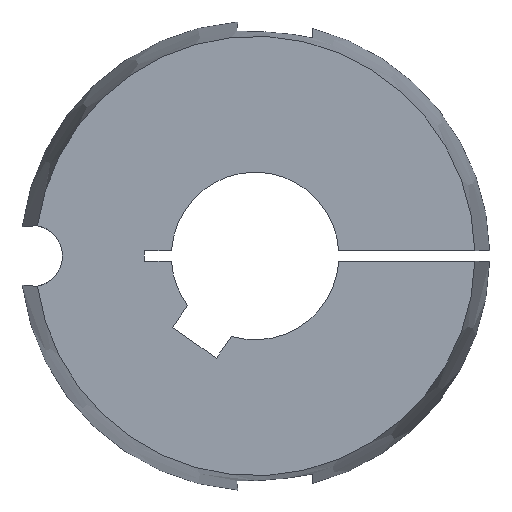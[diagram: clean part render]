
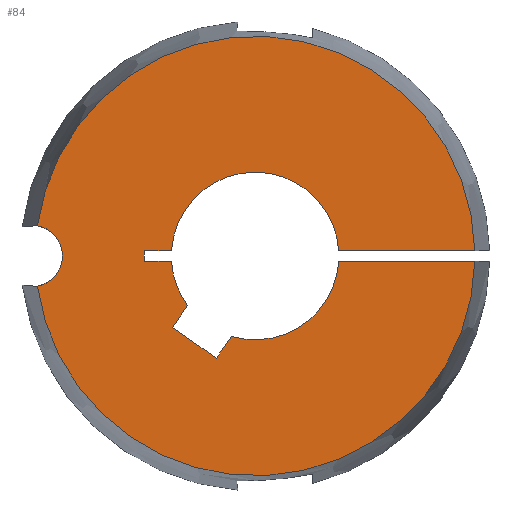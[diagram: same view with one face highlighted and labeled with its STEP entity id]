
A CAD part, left-side view. The second image highlights one B-rep face of the part: STEP entity #84.
In plain terms, the highlighted planar face has unit normal (-1, 0, 0).
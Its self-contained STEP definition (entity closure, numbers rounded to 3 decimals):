
#84 = ADVANCED_FACE( '', ( #114 ), #115, .F. );
#114 = FACE_OUTER_BOUND( '', #154, .T. );
#115 = PLANE( '', #155 );
#154 = EDGE_LOOP( '', ( #251, #252, #253, #254, #255, #256, #257, #258, #259, #260, #261, #262, #263, #264 ) );
#155 = AXIS2_PLACEMENT_3D( '', #265, #266, #267 );
#251 = ORIENTED_EDGE( '', *, *, #349, .T. );
#252 = ORIENTED_EDGE( '', *, *, #381, .F. );
#253 = ORIENTED_EDGE( '', *, *, #352, .T. );
#254 = ORIENTED_EDGE( '', *, *, #365, .T. );
#255 = ORIENTED_EDGE( '', *, *, #363, .T. );
#256 = ORIENTED_EDGE( '', *, *, #360, .T. );
#257 = ORIENTED_EDGE( '', *, *, #369, .T. );
#258 = ORIENTED_EDGE( '', *, *, #382, .T. );
#259 = ORIENTED_EDGE( '', *, *, #383, .T. );
#260 = ORIENTED_EDGE( '', *, *, #384, .T. );
#261 = ORIENTED_EDGE( '', *, *, #385, .T. );
#262 = ORIENTED_EDGE( '', *, *, #386, .T. );
#263 = ORIENTED_EDGE( '', *, *, #354, .T. );
#264 = ORIENTED_EDGE( '', *, *, #387, .F. );
#265 = CARTESIAN_POINT( '', ( -31.8, 0., 0. ) );
#266 = DIRECTION( '', ( 1., 0., 0. ) );
#267 = DIRECTION( '', ( 0., 0., -1. ) );
#349 = EDGE_CURVE( '', #402, #407, #409, .T. );
#352 = EDGE_CURVE( '', #415, #413, #416, .T. );
#354 = EDGE_CURVE( '', #418, #419, #420, .T. );
#360 = EDGE_CURVE( '', #431, #429, #432, .T. );
#363 = EDGE_CURVE( '', #436, #431, #437, .T. );
#365 = EDGE_CURVE( '', #413, #436, #439, .T. );
#369 = EDGE_CURVE( '', #429, #443, #445, .T. );
#381 = EDGE_CURVE( '', #415, #407, #465, .T. );
#382 = EDGE_CURVE( '', #443, #466, #467, .T. );
#383 = EDGE_CURVE( '', #466, #468, #469, .T. );
#384 = EDGE_CURVE( '', #468, #470, #471, .T. );
#385 = EDGE_CURVE( '', #470, #472, #473, .T. );
#386 = EDGE_CURVE( '', #472, #418, #474, .T. );
#387 = EDGE_CURVE( '', #402, #419, #475, .T. );
#402 = VERTEX_POINT( '', #521 );
#407 = VERTEX_POINT( '', #531 );
#409 = CIRCLE( '', #538, 4.6 );
#413 = VERTEX_POINT( '', #543 );
#415 = VERTEX_POINT( '', #546 );
#416 = LINE( '', #547, #548 );
#418 = VERTEX_POINT( '', #556 );
#419 = VERTEX_POINT( '', #557 );
#420 = LINE( '', #558, #559 );
#429 = VERTEX_POINT( '', #577 );
#431 = VERTEX_POINT( '', #580 );
#432 = LINE( '', #581, #582 );
#436 = VERTEX_POINT( '', #588 );
#437 = LINE( '', #589, #590 );
#439 = CIRCLE( '', #593, 12.5 );
#443 = VERTEX_POINT( '', #598 );
#445 = LINE( '', #601, #602 );
#465 = CIRCLE( '', #625, 32.776 );
#466 = VERTEX_POINT( '', #626 );
#467 = CIRCLE( '', #627, 12.5 );
#468 = VERTEX_POINT( '', #628 );
#469 = LINE( '', #629, #630 );
#470 = VERTEX_POINT( '', #631 );
#471 = LINE( '', #632, #633 );
#472 = VERTEX_POINT( '', #634 );
#473 = LINE( '', #635, #636 );
#474 = CIRCLE( '', #637, 12.5 );
#475 = CIRCLE( '', #638, 32.776 );
#521 = CARTESIAN_POINT( '', ( -31.8, 32.464, 4.516 ) );
#531 = CARTESIAN_POINT( '', ( -31.8, 32.464, -4.516 ) );
#538 = AXIS2_PLACEMENT_3D( '', #702, #703, #704 );
#543 = CARTESIAN_POINT( '', ( -31.8, -12.477, -0.75 ) );
#546 = CARTESIAN_POINT( '', ( -31.8, -32.768, -0.75 ) );
#547 = CARTESIAN_POINT( '', ( -31.8, -35., -0.75 ) );
#548 = VECTOR( '', #707, 1000. );
#556 = CARTESIAN_POINT( '', ( -31.8, -12.477, 0.75 ) );
#557 = CARTESIAN_POINT( '', ( -31.8, -32.768, 0.75 ) );
#558 = CARTESIAN_POINT( '', ( -31.8, 0., 0.75 ) );
#559 = VECTOR( '', #708, 1000. );
#577 = CARTESIAN_POINT( '', ( -31.8, 12.339, -10.648 ) );
#580 = CARTESIAN_POINT( '', ( -31.8, 5.786, -15.237 ) );
#581 = CARTESIAN_POINT( '', ( -31.8, 5.786, -15.237 ) );
#582 = VECTOR( '', #713, 1000. );
#588 = CARTESIAN_POINT( '', ( -31.8, 3.516, -11.995 ) );
#589 = CARTESIAN_POINT( '', ( -31.8, 3.516, -11.995 ) );
#590 = VECTOR( '', #716, 1000. );
#593 = AXIS2_PLACEMENT_3D( '', #718, #719, #720 );
#598 = CARTESIAN_POINT( '', ( -31.8, 10.069, -7.407 ) );
#601 = CARTESIAN_POINT( '', ( -31.8, 12.339, -10.648 ) );
#602 = VECTOR( '', #726, 1000. );
#625 = AXIS2_PLACEMENT_3D( '', #754, #755, #756 );
#626 = CARTESIAN_POINT( '', ( -31.8, 12.477, -0.75 ) );
#627 = AXIS2_PLACEMENT_3D( '', #757, #758, #759 );
#628 = CARTESIAN_POINT( '', ( -31.8, 16.5, -0.75 ) );
#629 = CARTESIAN_POINT( '', ( -31.8, 0., -0.75 ) );
#630 = VECTOR( '', #760, 1000. );
#631 = CARTESIAN_POINT( '', ( -31.8, 16.5, 0.75 ) );
#632 = CARTESIAN_POINT( '', ( -31.8, 16.5, -0.75 ) );
#633 = VECTOR( '', #761, 1000. );
#634 = CARTESIAN_POINT( '', ( -31.8, 12.477, 0.75 ) );
#635 = CARTESIAN_POINT( '', ( -31.8, 16.5, 0.75 ) );
#636 = VECTOR( '', #762, 1000. );
#637 = AXIS2_PLACEMENT_3D( '', #763, #764, #765 );
#638 = AXIS2_PLACEMENT_3D( '', #766, #767, #768 );
#702 = CARTESIAN_POINT( '', ( -31.8, 33.34, 0. ) );
#703 = DIRECTION( '', ( 1., 0., 0. ) );
#704 = DIRECTION( '', ( 0., 1., 0. ) );
#707 = DIRECTION( '', ( 0., 1., 0. ) );
#708 = DIRECTION( '', ( 0., -1., 0. ) );
#713 = DIRECTION( '', ( 0., 0.819, 0.574 ) );
#716 = DIRECTION( '', ( 0., 0.574, -0.819 ) );
#718 = CARTESIAN_POINT( '', ( -31.8, 0., 0. ) );
#719 = DIRECTION( '', ( 1., 0., 0. ) );
#720 = DIRECTION( '', ( 0., 0., -1. ) );
#726 = DIRECTION( '', ( 0., -0.574, 0.819 ) );
#754 = CARTESIAN_POINT( '', ( -31.8, 0., 0. ) );
#755 = DIRECTION( '', ( 1., 0., 0. ) );
#756 = DIRECTION( '', ( 0., 0., -1. ) );
#757 = CARTESIAN_POINT( '', ( -31.8, 0., 0. ) );
#758 = DIRECTION( '', ( 1., 0., 0. ) );
#759 = DIRECTION( '', ( 0., 0., -1. ) );
#760 = DIRECTION( '', ( 0., 1., 0. ) );
#761 = DIRECTION( '', ( 0., 0., 1. ) );
#762 = DIRECTION( '', ( 0., -1., 0. ) );
#763 = CARTESIAN_POINT( '', ( -31.8, 0., 0. ) );
#764 = DIRECTION( '', ( 1., 0., 0. ) );
#765 = DIRECTION( '', ( 0., 0., -1. ) );
#766 = CARTESIAN_POINT( '', ( -31.8, 0., 0. ) );
#767 = DIRECTION( '', ( 1., 0., 0. ) );
#768 = DIRECTION( '', ( 0., 0., -1. ) );
